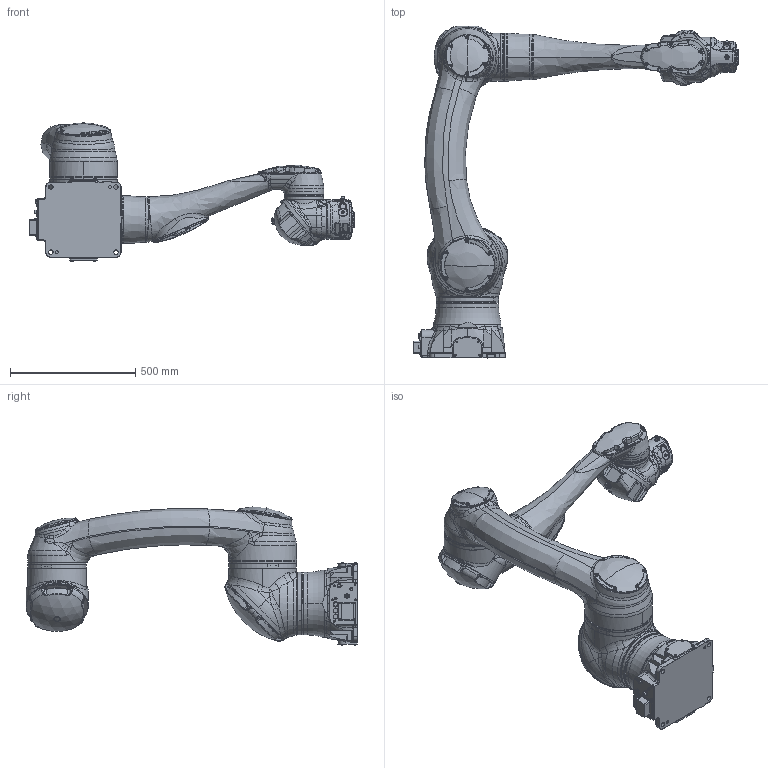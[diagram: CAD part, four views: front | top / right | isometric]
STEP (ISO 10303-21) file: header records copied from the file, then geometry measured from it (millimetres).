
FILE_DESCRIPTION((''),'2;1');
FILE_NAME('ASSY_VIEW_YR-1-06VXCP20-B00_ASM','2021-06-28T',('kbkn19'),('YASKAWA ELECTRIC CORPORATION'),'PRO/ENGINEER BY PARAMETRIC TECHNOLOGY CORPORATION, 2015030','PRO/ENGINEER BY PARAMETRIC TECHNOLOGY CORPORATION, 2015030','');
FILE_SCHEMA(('CONFIG_CONTROL_DESIGN'));
Products named in the file (8): BASE_VIEW_YR-1-06VXCP20-B00; S_VIEW_YR-1-06VXCP20-B00; L_VIEW_YR-1-06VXCP20-B00; U_VIEW_YR-1-06VXCP20-B00; R_VIEW_YR-1-06VXCP20-B00; B_VIEW_YR-1-06VXCP20-B00; T_VIEW_YR-1-06VXCP20-B00; ASSY_VIEW_YR-1-06VXCP20-B00_ASM
Assembly tree (7 placements, depth 2):
  ASSY_VIEW_YR-1-06VXCP20-B00_ASM
    BASE_VIEW_YR-1-06VXCP20-B00
    S_VIEW_YR-1-06VXCP20-B00
    L_VIEW_YR-1-06VXCP20-B00
    U_VIEW_YR-1-06VXCP20-B00
    R_VIEW_YR-1-06VXCP20-B00
    B_VIEW_YR-1-06VXCP20-B00
    T_VIEW_YR-1-06VXCP20-B00
Bounding box: 1293.65 x 1324 x 550.68 mm (x, y, z)
Volume: 92451334.9 mm3; surface area: 2830696.2 mm2
Topology: 7 solids, 23 shells, 4415 faces, 10679 edges, 6485 vertices
Faces by surface type: bspline 1426, plane 1039, cylinder 1024, cone 551, torus 318, sphere 48, extrusion 9
Entity records: 235003 total; most frequent: CARTESIAN_POINT 140487, ORIENTED_EDGE 21188, DIRECTION 17394, EDGE_CURVE 10618, AXIS2_PLACEMENT_3D 6989, VERTEX_POINT 6485, EDGE_LOOP 4691, FACE_OUTER_BOUND 4415
